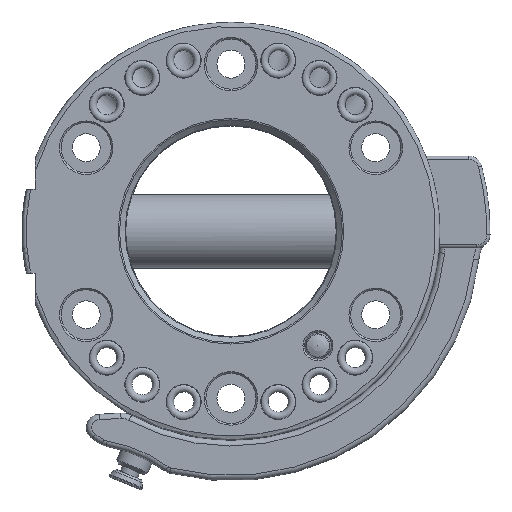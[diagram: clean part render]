
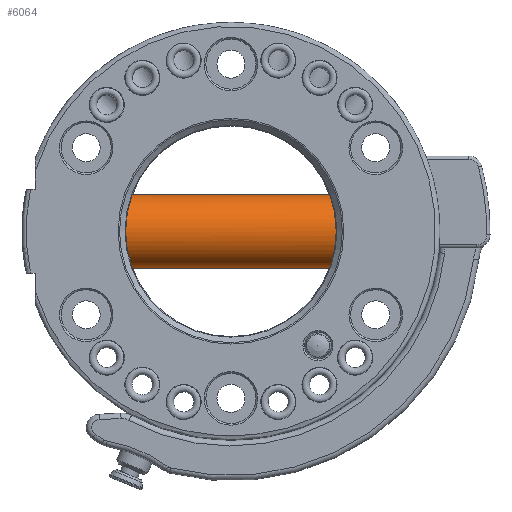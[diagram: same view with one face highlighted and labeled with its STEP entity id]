
A CAD part, front view. The second image highlights one B-rep face of the part: STEP entity #6064.
In plain terms, the highlighted cylindrical face has radius 11 mm (diameter 22 mm), a full revolution.
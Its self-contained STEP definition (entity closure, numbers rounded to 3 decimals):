
#63=B_SPLINE_CURVE_WITH_KNOTS('',3,(#10071,#10072,#10073,#10074,#10075,
#10076,#10077,#10078,#10079,#10080),.UNSPECIFIED.,.F.,.F.,(4,2,2,2,4),(0.,
0.418,0.837,1.255,1.673),
 .UNSPECIFIED.);
#64=B_SPLINE_CURVE_WITH_KNOTS('',3,(#10083,#10084,#10085,#10086,#10087,
#10088,#10089,#10090,#10091,#10092,#10093,#10094,#10095,#10096,#10097,#10098,
#10099,#10100,#10101,#10102,#10103,#10104,#10105,#10106,#10107,#10108,#10109,
#10110,#10111,#10112,#10113,#10114,#10115,#10116),.UNSPECIFIED.,.T.,.F.,
(4,2,2,2,2,2,2,2,2,2,2,2,2,2,2,2,4),(0.,0.418,0.837,
1.255,1.673,2.091,2.509,2.927,
3.346,3.764,4.182,4.6,5.018,
5.436,5.855,6.273,6.691),
 .UNSPECIFIED.);
#65=B_SPLINE_CURVE_WITH_KNOTS('',3,(#10118,#10119,#10120,#10121,#10122,
#10123,#10124,#10125,#10126,#10127),.UNSPECIFIED.,.F.,.F.,(4,2,2,2,4),(5.018,
5.436,5.855,6.273,6.691),
 .UNSPECIFIED.);
#66=B_SPLINE_CURVE_WITH_KNOTS('',3,(#10128,#10129,#10130,#10131,#10132,
#10133,#10134,#10135,#10136,#10137,#10138,#10139,#10140,#10141,#10142,#10143,
#10144,#10145),.UNSPECIFIED.,.F.,.F.,(4,2,2,2,2,2,2,2,4),(1.673,
2.091,2.509,2.927,3.346,3.764,
4.182,4.6,5.018),.UNSPECIFIED.);
#509=FACE_OUTER_BOUND('',#861,.T.);
#861=EDGE_LOOP('',(#4183,#4184,#4185,#4186,#4187,#4188));
#1246=LINE('',#10082,#1481);
#1481=VECTOR('',#7882,11.);
#2432=VERTEX_POINT('',#10069);
#2433=VERTEX_POINT('',#10070);
#2434=VERTEX_POINT('',#10081);
#2435=VERTEX_POINT('',#10117);
#3116=EDGE_CURVE('',#2432,#2433,#63,.T.);
#3117=EDGE_CURVE('',#2432,#2434,#1246,.T.);
#3118=EDGE_CURVE('',#2434,#2434,#64,.T.);
#3119=EDGE_CURVE('',#2435,#2432,#65,.T.);
#3120=EDGE_CURVE('',#2433,#2435,#66,.T.);
#4183=ORIENTED_EDGE('',*,*,#3116,.F.);
#4184=ORIENTED_EDGE('',*,*,#3117,.T.);
#4185=ORIENTED_EDGE('',*,*,#3118,.F.);
#4186=ORIENTED_EDGE('',*,*,#3117,.F.);
#4187=ORIENTED_EDGE('',*,*,#3119,.F.);
#4188=ORIENTED_EDGE('',*,*,#3120,.F.);
#5566=CYLINDRICAL_SURFACE('',#6637,11.);
#6064=ADVANCED_FACE('',(#509),#5566,.T.);
#6637=AXIS2_PLACEMENT_3D('',#10068,#7880,#7881);
#7880=DIRECTION('center_axis',(1.,0.,0.));
#7881=DIRECTION('ref_axis',(0.,0.,1.));
#7882=DIRECTION('',(-1.,0.,0.));
#10068=CARTESIAN_POINT('Origin',(33.65,16.,0.));
#10069=CARTESIAN_POINT('',(29.517,16.,-11.));
#10070=CARTESIAN_POINT('',(31.5,27.,0.));
#10071=CARTESIAN_POINT('Ctrl Pts',(29.517,16.,-11.));
#10072=CARTESIAN_POINT('Ctrl Pts',(29.517,17.394,-11.));
#10073=CARTESIAN_POINT('Ctrl Pts',(29.626,18.873,-10.719));
#10074=CARTESIAN_POINT('Ctrl Pts',(30.01,21.579,-9.593));
#10075=CARTESIAN_POINT('Ctrl Pts',(30.277,22.808,-8.749));
#10076=CARTESIAN_POINT('Ctrl Pts',(30.772,24.748,-6.808));
#10077=CARTESIAN_POINT('Ctrl Pts',(31.032,25.593,-5.579));
#10078=CARTESIAN_POINT('Ctrl Pts',(31.398,26.719,-2.872));
#10079=CARTESIAN_POINT('Ctrl Pts',(31.5,27.,-1.394));
#10080=CARTESIAN_POINT('Ctrl Pts',(31.5,27.,0.));
#10081=CARTESIAN_POINT('',(-29.517,16.,-11.));
#10082=CARTESIAN_POINT('',(33.65,16.,-11.));
#10083=CARTESIAN_POINT('Ctrl Pts',(-29.517,16.,-11.));
#10084=CARTESIAN_POINT('Ctrl Pts',(-29.517,14.606,-11.));
#10085=CARTESIAN_POINT('Ctrl Pts',(-29.626,13.127,-10.719));
#10086=CARTESIAN_POINT('Ctrl Pts',(-30.01,10.421,-9.593));
#10087=CARTESIAN_POINT('Ctrl Pts',(-30.277,9.192,-8.749));
#10088=CARTESIAN_POINT('Ctrl Pts',(-30.772,7.252,-6.808));
#10089=CARTESIAN_POINT('Ctrl Pts',(-31.032,6.407,-5.579));
#10090=CARTESIAN_POINT('Ctrl Pts',(-31.398,5.281,-2.872));
#10091=CARTESIAN_POINT('Ctrl Pts',(-31.5,5.,-1.394));
#10092=CARTESIAN_POINT('Ctrl Pts',(-31.5,5.,1.394));
#10093=CARTESIAN_POINT('Ctrl Pts',(-31.398,5.281,2.872));
#10094=CARTESIAN_POINT('Ctrl Pts',(-31.032,6.407,5.579));
#10095=CARTESIAN_POINT('Ctrl Pts',(-30.772,7.252,6.808));
#10096=CARTESIAN_POINT('Ctrl Pts',(-30.277,9.192,8.749));
#10097=CARTESIAN_POINT('Ctrl Pts',(-30.01,10.421,9.593));
#10098=CARTESIAN_POINT('Ctrl Pts',(-29.626,13.127,10.719));
#10099=CARTESIAN_POINT('Ctrl Pts',(-29.517,14.606,11.));
#10100=CARTESIAN_POINT('Ctrl Pts',(-29.517,17.394,11.));
#10101=CARTESIAN_POINT('Ctrl Pts',(-29.626,18.873,10.719));
#10102=CARTESIAN_POINT('Ctrl Pts',(-30.01,21.579,9.593));
#10103=CARTESIAN_POINT('Ctrl Pts',(-30.277,22.808,8.749));
#10104=CARTESIAN_POINT('Ctrl Pts',(-30.772,24.748,6.808));
#10105=CARTESIAN_POINT('Ctrl Pts',(-31.032,25.593,5.579));
#10106=CARTESIAN_POINT('Ctrl Pts',(-31.398,26.719,2.872));
#10107=CARTESIAN_POINT('Ctrl Pts',(-31.5,27.,1.394));
#10108=CARTESIAN_POINT('Ctrl Pts',(-31.5,27.,-1.394));
#10109=CARTESIAN_POINT('Ctrl Pts',(-31.398,26.719,-2.872));
#10110=CARTESIAN_POINT('Ctrl Pts',(-31.032,25.593,-5.579));
#10111=CARTESIAN_POINT('Ctrl Pts',(-30.772,24.748,-6.808));
#10112=CARTESIAN_POINT('Ctrl Pts',(-30.277,22.808,-8.749));
#10113=CARTESIAN_POINT('Ctrl Pts',(-30.01,21.579,-9.593));
#10114=CARTESIAN_POINT('Ctrl Pts',(-29.626,18.873,-10.719));
#10115=CARTESIAN_POINT('Ctrl Pts',(-29.517,17.394,-11.));
#10116=CARTESIAN_POINT('Ctrl Pts',(-29.517,16.,-11.));
#10117=CARTESIAN_POINT('',(31.5,5.,0.));
#10118=CARTESIAN_POINT('Ctrl Pts',(31.5,5.,0.));
#10119=CARTESIAN_POINT('Ctrl Pts',(31.5,5.,-1.394));
#10120=CARTESIAN_POINT('Ctrl Pts',(31.398,5.281,-2.872));
#10121=CARTESIAN_POINT('Ctrl Pts',(31.032,6.407,-5.579));
#10122=CARTESIAN_POINT('Ctrl Pts',(30.772,7.252,-6.808));
#10123=CARTESIAN_POINT('Ctrl Pts',(30.277,9.192,-8.749));
#10124=CARTESIAN_POINT('Ctrl Pts',(30.01,10.421,-9.593));
#10125=CARTESIAN_POINT('Ctrl Pts',(29.626,13.127,-10.719));
#10126=CARTESIAN_POINT('Ctrl Pts',(29.517,14.606,-11.));
#10127=CARTESIAN_POINT('Ctrl Pts',(29.517,16.,-11.));
#10128=CARTESIAN_POINT('Ctrl Pts',(31.5,27.,0.));
#10129=CARTESIAN_POINT('Ctrl Pts',(31.5,27.,1.394));
#10130=CARTESIAN_POINT('Ctrl Pts',(31.398,26.719,2.872));
#10131=CARTESIAN_POINT('Ctrl Pts',(31.032,25.593,5.579));
#10132=CARTESIAN_POINT('Ctrl Pts',(30.772,24.748,6.808));
#10133=CARTESIAN_POINT('Ctrl Pts',(30.277,22.808,8.749));
#10134=CARTESIAN_POINT('Ctrl Pts',(30.01,21.579,9.593));
#10135=CARTESIAN_POINT('Ctrl Pts',(29.626,18.873,10.719));
#10136=CARTESIAN_POINT('Ctrl Pts',(29.517,17.394,11.));
#10137=CARTESIAN_POINT('Ctrl Pts',(29.517,14.606,11.));
#10138=CARTESIAN_POINT('Ctrl Pts',(29.626,13.127,10.719));
#10139=CARTESIAN_POINT('Ctrl Pts',(30.01,10.421,9.593));
#10140=CARTESIAN_POINT('Ctrl Pts',(30.277,9.192,8.749));
#10141=CARTESIAN_POINT('Ctrl Pts',(30.772,7.252,6.808));
#10142=CARTESIAN_POINT('Ctrl Pts',(31.032,6.407,5.579));
#10143=CARTESIAN_POINT('Ctrl Pts',(31.398,5.281,2.872));
#10144=CARTESIAN_POINT('Ctrl Pts',(31.5,5.,1.394));
#10145=CARTESIAN_POINT('Ctrl Pts',(31.5,5.,0.));
